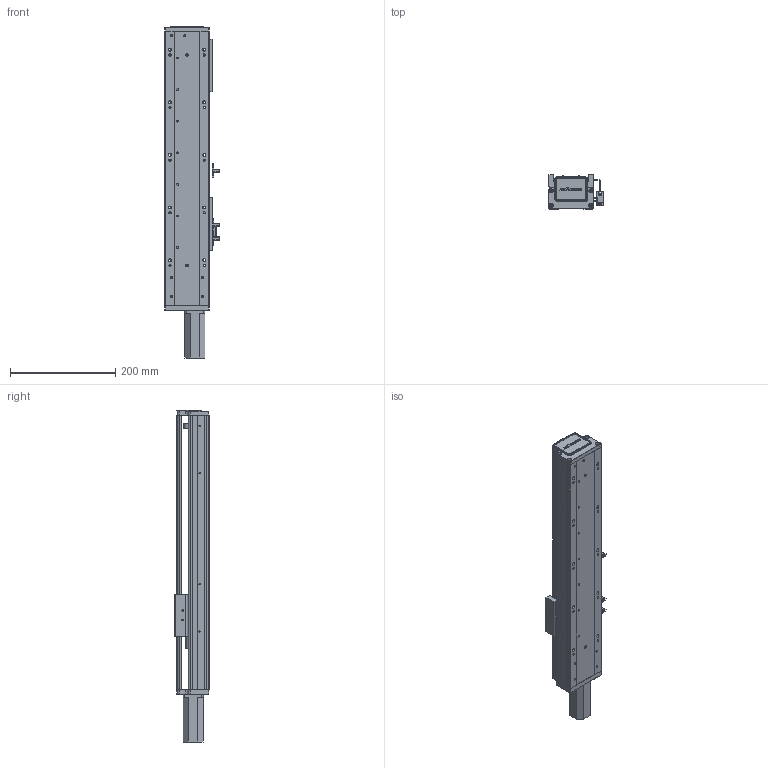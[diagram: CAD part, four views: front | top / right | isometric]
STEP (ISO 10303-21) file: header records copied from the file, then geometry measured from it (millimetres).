
FILE_DESCRIPTION (( 'STEP AP203' ), '1' );
FILE_NAME ('RY80-L1620-300-MK(100W).SLDASM_300.step', '2021-02-20T02:19:19', ( '' ), ( '' ), 'SwSTEP 2.0', 'SolidWorks 2012', '' );
FILE_SCHEMA (( 'CONFIG_CONTROL_DESIGN' ));
Length unit declared in the file: millimetre
Products named in the file (12): 侂狟100W; RY80俋离覜茼え; RY80-L1620-300-MK(100W).SLDASM_300; 滅袉蝶18-24; 672嫖萇羲壽假蚾釱; 滅袉蝶18-10; 覜茼ん672; RY80綴裔啣; RY80前盖板(100W电机)M3; RY80-300-MK倰第奻裔啣; RY80-300-MK倰第菁釱; RY80臏賑輸
Assembly tree (14 placements, depth 2):
  RY80-L1620-300-MK(100W).SLDASM_300
    RY80-300-MK倰第菁釱
    RY80臏賑輸
    RY80-300-MK倰第奻裔啣
    RY80前盖板(100W电机)M3
    RY80綴裔啣
    滅袉蝶18-10
    672嫖萇羲壽假蚾釱  x2
    覜茼ん672  x3
    RY80俋离覜茼え
    滅袉蝶18-24
    侂狟100W
Bounding box: 103.7 x 65 x 631 mm (x, y, z)
Volume: 999801.2 mm3; surface area: 404662 mm2
Topology: 14 solids, 14 shells, 1511 faces, 4217 edges, 2753 vertices
Faces by surface type: plane 892, cylinder 514, cone 71, bspline 34
Entity records: 46528 total; most frequent: CARTESIAN_POINT 11937, ORIENTED_EDGE 7202, DIRECTION 6484, EDGE_CURVE 3601, VERTEX_POINT 2369, LINE 2292, VECTOR 2292, AXIS2_PLACEMENT_3D 2096
